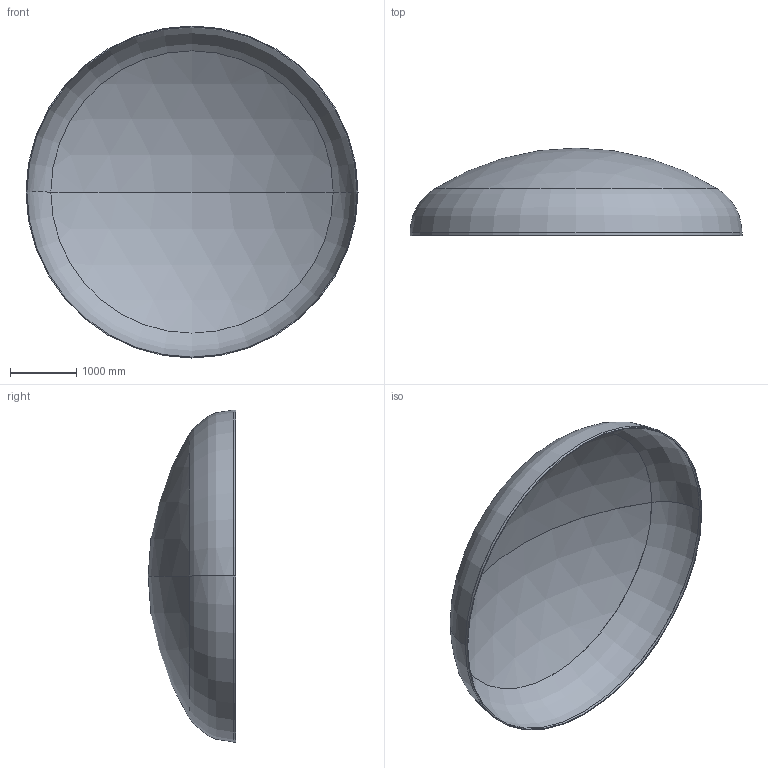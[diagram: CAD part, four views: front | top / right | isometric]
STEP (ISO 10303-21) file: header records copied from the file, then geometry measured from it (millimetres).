
FILE_DESCRIPTION (( 'STEP AP203' ), '1' );
FILE_NAME ('DIN 28013 Korbbogenform_-_Boden DIN 28013 - 5000 x 40 - I - s=13.step', '2016-07-02T00:06:09', ( '' ), ( '' ), 'SwSTEP 2.0', 'SolidWorks 2013', '' );
FILE_SCHEMA (( 'CONFIG_CONTROL_DESIGN' ));
Length unit declared in the file: millimetre
Products named in the file (1): DIN 28013 Korbbogenform_-_Boden DIN 28013 - 5000 x 40 - I - s=13
Bounding box: 5000 x 1317.16 x 5000 mm (x, y, z)
Volume: 360485062 mm3; surface area: 55663244.1 mm2
Topology: 1 solids, 1 shells, 13 faces, 24 edges, 14 vertices
Faces by surface type: torus 4, cylinder 4, sphere 4, plane 1
Entity records: 407 total; most frequent: DIRECTION 72, CARTESIAN_POINT 52, ORIENTED_EDGE 48, AXIS2_PLACEMENT_3D 34, EDGE_CURVE 24, CIRCLE 20, EDGE_LOOP 14, VERTEX_POINT 14
